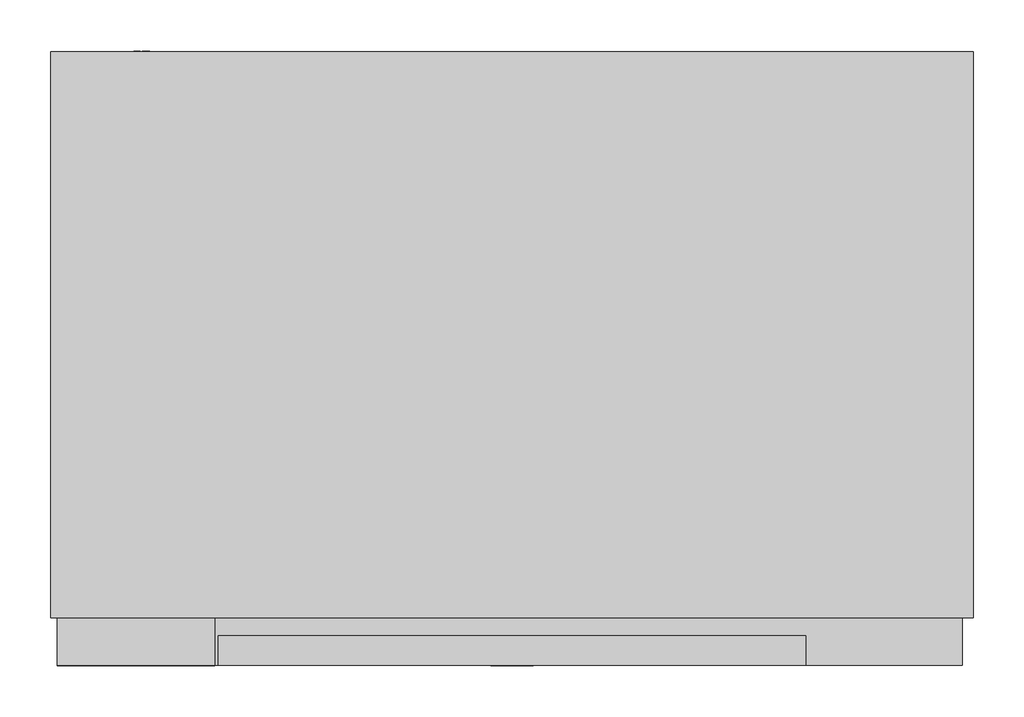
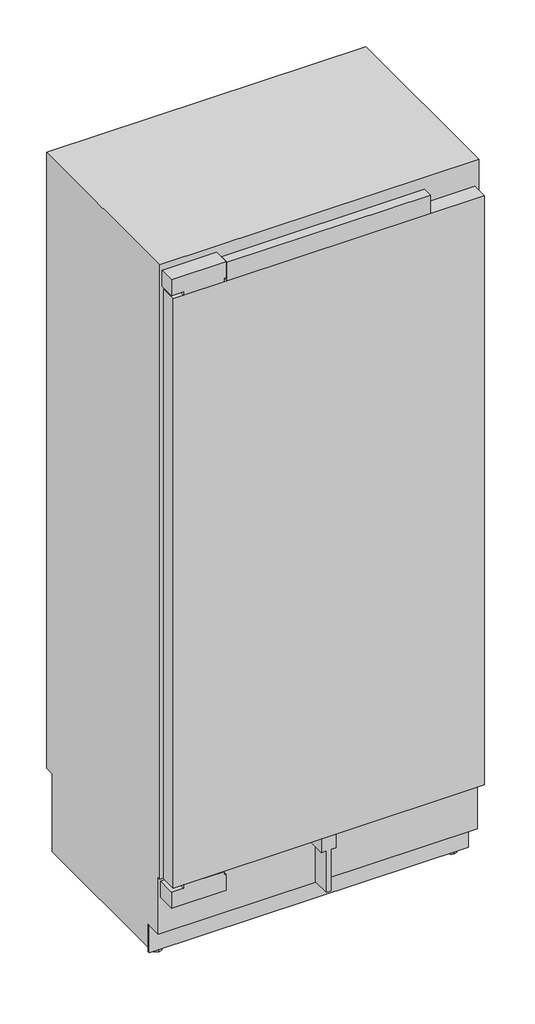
# Not in any storey: 1 proxy.
"""IFC4 building model written with IfcOpenShell, lengths in millimetres."""

from ifc_helpers import new_model, si_unit, origin, place, context, project, spatial, transform, mapped, element, save
from components import specialty_equipment_9068d553

model = new_model("IFC4")

# Units and contexts
model_context = context("Model", 3, world=origin())
ifc_project = project(units=[si_unit("LENGTHUNIT", "METRE", prefix="MILLI")], contexts=[model_context])

# Site, building
site = spatial("IfcSite", under=ifc_project)
building = spatial("IfcBuilding", under=site)

# Proxy
placement = place(None, origin())
specialty_equipment_shape = specialty_equipment_9068d553(model_context)
element("IfcBuildingElementProxy", 1, Name="11502720_USA_K2912Vi : 36291201_USA_11502720_K2912Vi", ObjectType="11502720_USA_K2912Vi : 36291201_USA_11502720_K2912Vi", at=placement, inside=building, context=model_context, shape_type="MappedRepresentation", body=[
    mapped(specialty_equipment_shape, transform((0.0, 0.0, 0.0), x_axis=(1.0, 0.0, 0.0), y_axis=(0.0, 1.0, 0.0), z_axis=(0.0, 0.0, 1.0))),
])

save(model, "model.ifc")
